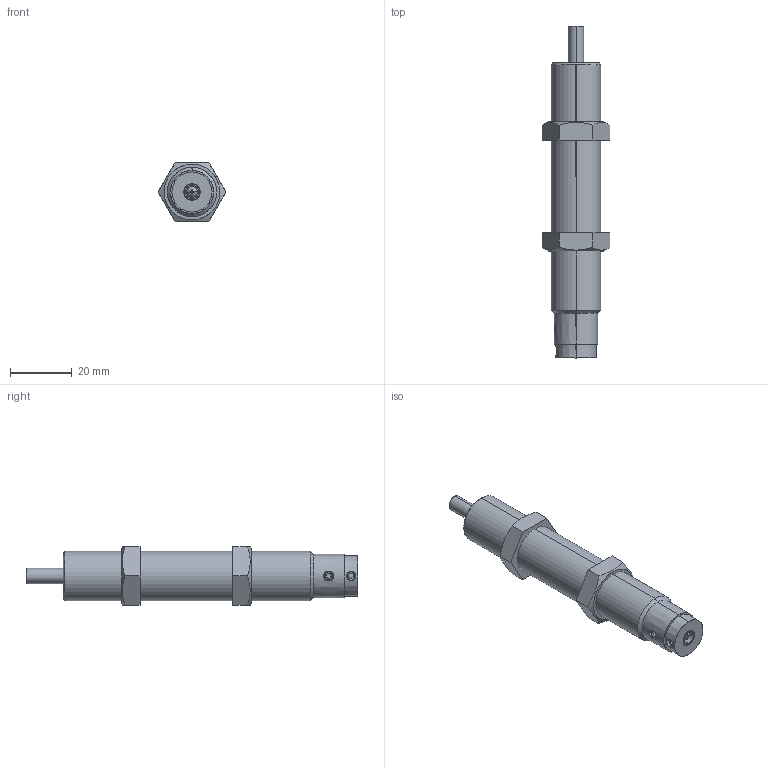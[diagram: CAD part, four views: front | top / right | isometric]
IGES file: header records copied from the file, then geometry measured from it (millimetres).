
Start section: SolidWorks IGES file using analytic representation for surfaces
Bounding box: 21.94 x 107.7 x 19 mm (x, y, z)
Surface area: 7564.5 mm2 (no closed solid volume)
Topology: 0 solids, 0 shells, 117 faces, 1662 edges, 1662 vertices
Faces by surface type: bspline 65, revolution 52
